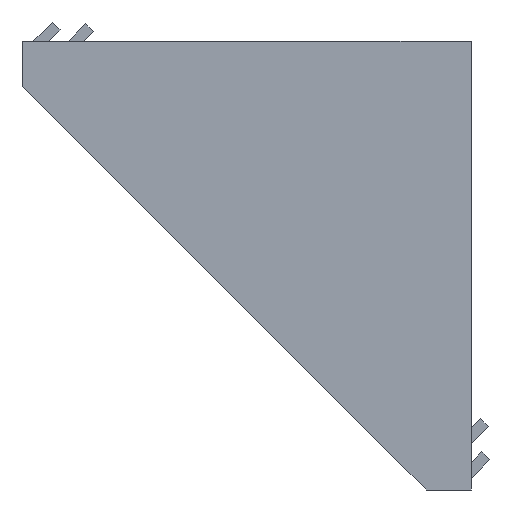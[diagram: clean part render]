
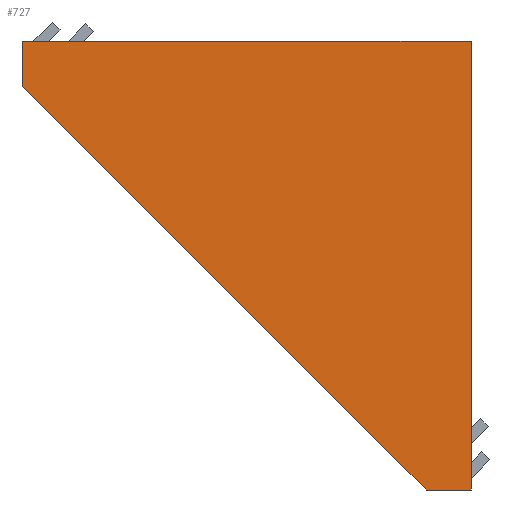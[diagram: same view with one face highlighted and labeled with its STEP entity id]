
A CAD part, left-side view. The second image highlights one B-rep face of the part: STEP entity #727.
In plain terms, the highlighted planar face has unit normal (-1, 0, 0).
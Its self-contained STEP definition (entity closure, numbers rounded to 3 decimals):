
#277 = EDGE_CURVE ( 'NONE', #1044, #2572, #599, .T. ) ;
#347 = CARTESIAN_POINT ( 'NONE',  ( -24.53, 58.106, 8. ) ) ;
#520 = VECTOR ( 'NONE', #4413, 1000. ) ;
#547 = CARTESIAN_POINT ( 'NONE',  ( -24.53, -21.394, 8. ) ) ;
#599 = LINE ( 'NONE', #3928, #1779 ) ;
#621 = ORIENTED_EDGE ( 'NONE', *, *, #2920, .T. ) ;
#705 = DIRECTION ( 'NONE',  ( 0., -1., 0. ) ) ;
#727 = ADVANCED_FACE ( 'NONE', ( #3223 ), #1716, .F. ) ;
#792 = AXIS2_PLACEMENT_3D ( 'NONE', #4218, #2074, #4560 ) ;
#841 = CARTESIAN_POINT ( 'NONE',  ( -24.53, 58.106, 0. ) ) ;
#1044 = VERTEX_POINT ( 'NONE', #3052 ) ;
#1184 = ORIENTED_EDGE ( 'NONE', *, *, #3547, .F. ) ;
#1191 = VECTOR ( 'NONE', #4625, 1000. ) ;
#1284 = ORIENTED_EDGE ( 'NONE', *, *, #4079, .F. ) ;
#1323 = VERTEX_POINT ( 'NONE', #2010 ) ;
#1401 = VERTEX_POINT ( 'NONE', #3268 ) ;
#1483 = LINE ( 'NONE', #841, #520 ) ;
#1505 = LINE ( 'NONE', #3677, #1622 ) ;
#1541 = DIRECTION ( 'NONE',  ( 0., 0., -1. ) ) ;
#1622 = VECTOR ( 'NONE', #1541, 1000. ) ;
#1716 = PLANE ( 'NONE',  #792 ) ;
#1779 = VECTOR ( 'NONE', #705, 1000. ) ;
#2010 = CARTESIAN_POINT ( 'NONE',  ( -24.53, 58.106, 0. ) ) ;
#2066 = VECTOR ( 'NONE', #2867, 1000. ) ;
#2074 = DIRECTION ( 'NONE',  ( 1., 0., 0. ) ) ;
#2174 = LINE ( 'NONE', #3569, #2066 ) ;
#2504 = VERTEX_POINT ( 'NONE', #3383 ) ;
#2572 = VERTEX_POINT ( 'NONE', #547 ) ;
#2772 = EDGE_CURVE ( 'NONE', #1044, #1323, #4168, .T. ) ;
#2867 = DIRECTION ( 'NONE',  ( 0., 1., 0. ) ) ;
#2920 = EDGE_CURVE ( 'NONE', #1323, #1401, #1483, .T. ) ;
#2993 = ORIENTED_EDGE ( 'NONE', *, *, #277, .F. ) ;
#3052 = CARTESIAN_POINT ( 'NONE',  ( -24.53, 58.106, 8. ) ) ;
#3223 = FACE_OUTER_BOUND ( 'NONE', #4299, .T. ) ;
#3268 = CARTESIAN_POINT ( 'NONE',  ( -24.53, -13.404, -71.5 ) ) ;
#3383 = CARTESIAN_POINT ( 'NONE',  ( -24.53, -21.394, -71.5 ) ) ;
#3547 = EDGE_CURVE ( 'NONE', #2504, #1401, #2174, .T. ) ;
#3569 = CARTESIAN_POINT ( 'NONE',  ( -24.53, -21.394, -71.5 ) ) ;
#3677 = CARTESIAN_POINT ( 'NONE',  ( -24.53, -21.394, 8. ) ) ;
#3808 = ORIENTED_EDGE ( 'NONE', *, *, #2772, .T. ) ;
#3928 = CARTESIAN_POINT ( 'NONE',  ( -24.53, 58.106, 8. ) ) ;
#4079 = EDGE_CURVE ( 'NONE', #2572, #2504, #1505, .T. ) ;
#4168 = LINE ( 'NONE', #347, #1191 ) ;
#4218 = CARTESIAN_POINT ( 'NONE',  ( -24.53, 58.106, 8. ) ) ;
#4299 = EDGE_LOOP ( 'NONE', ( #3808, #621, #1184, #1284, #2993 ) ) ;
#4413 = DIRECTION ( 'NONE',  ( 0., -0.707, -0.707 ) ) ;
#4560 = DIRECTION ( 'NONE',  ( 0., 1., 0. ) ) ;
#4625 = DIRECTION ( 'NONE',  ( 0., 0., -1. ) ) ;
